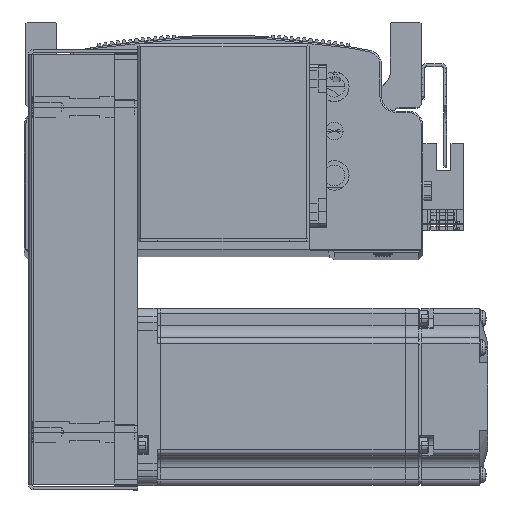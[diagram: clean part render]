
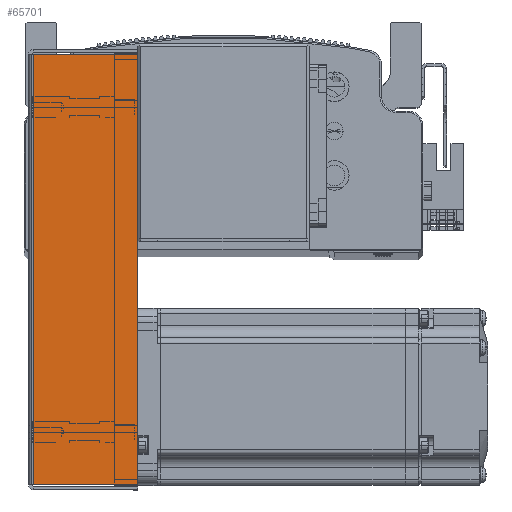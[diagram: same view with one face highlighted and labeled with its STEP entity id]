
A CAD part, top view. The second image highlights one B-rep face of the part: STEP entity #65701.
In plain terms, the highlighted planar face has unit normal (0, 0, 1) as drawn and (0, 0, -1) by its records, which use the part's own axes.
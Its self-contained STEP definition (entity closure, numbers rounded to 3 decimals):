
#8175 = ORIENTED_EDGE ( 'NONE', *, *, #9451, .F. ) ;
#8233 = ORIENTED_EDGE ( 'NONE', *, *, #9473, .T. ) ;
#8260 = ORIENTED_EDGE ( 'NONE', *, *, #9457, .F. ) ;
#8265 = ORIENTED_EDGE ( 'NONE', *, *, #9492, .T. ) ;
#9451 = EDGE_CURVE ( 'NONE', #35723, #35694, #71999, .T. ) ;
#9457 = EDGE_CURVE ( 'NONE', #35694, #35751, #72003, .T. ) ;
#9473 = EDGE_CURVE ( 'NONE', #35700, #35751, #72036, .T. ) ;
#9492 = EDGE_CURVE ( 'NONE', #35723, #35700, #72013, .T. ) ;
#19354 = PLANE ( 'NONE',  #41092 ) ;
#19419 = DIRECTION ( 'NONE',  ( 0., 0., 1. ) ) ;
#19449 = CARTESIAN_POINT ( 'NONE',  ( 0., 0., -34.5 ) ) ;
#19475 = DIRECTION ( 'NONE',  ( 0., -1., 0. ) ) ;
#25841 = FACE_OUTER_BOUND ( 'NONE', #30112, .T. ) ;
#30112 = EDGE_LOOP ( 'NONE', ( #8175, #8265, #8233, #8260 ) ) ;
#35694 = VERTEX_POINT ( 'NONE', #54235 ) ;
#35700 = VERTEX_POINT ( 'NONE', #54305 ) ;
#35723 = VERTEX_POINT ( 'NONE', #54403 ) ;
#35751 = VERTEX_POINT ( 'NONE', #54400 ) ;
#41092 = AXIS2_PLACEMENT_3D ( 'NONE', #19449, #19419, #19475 ) ;
#54235 = CARTESIAN_POINT ( 'NONE',  ( 72.793, 0.737, -34.5 ) ) ;
#54305 = CARTESIAN_POINT ( 'NONE',  ( -72.793, 36., -34.5 ) ) ;
#54400 = CARTESIAN_POINT ( 'NONE',  ( 72.793, 36., -34.5 ) ) ;
#54403 = CARTESIAN_POINT ( 'NONE',  ( -72.793, 0.737, -34.5 ) ) ;
#60559 = CARTESIAN_POINT ( 'NONE',  ( 74.5, 0.737, -34.5 ) ) ;
#60563 = DIRECTION ( 'NONE',  ( 0., 1., 0. ) ) ;
#60567 = DIRECTION ( 'NONE',  ( 1., 0., 0. ) ) ;
#60579 = CARTESIAN_POINT ( 'NONE',  ( 72.793, 0., -34.5 ) ) ;
#60622 = CARTESIAN_POINT ( 'NONE',  ( 0., 36., -34.5 ) ) ;
#60648 = DIRECTION ( 'NONE',  ( 1., 0., 0. ) ) ;
#60699 = CARTESIAN_POINT ( 'NONE',  ( -72.793, 0., -34.5 ) ) ;
#60714 = DIRECTION ( 'NONE',  ( 0., 1., 0. ) ) ;
#65701 = ADVANCED_FACE ( 'NONE', ( #25841 ), #19354, .F. ) ;
#71943 = VECTOR ( 'NONE', #60567, 1000. ) ;
#71991 = VECTOR ( 'NONE', #60563, 1000. ) ;
#71999 = LINE ( 'NONE', #60559, #71943 ) ;
#72003 = LINE ( 'NONE', #60579, #71991 ) ;
#72013 = LINE ( 'NONE', #60699, #72062 ) ;
#72036 = LINE ( 'NONE', #60622, #72058 ) ;
#72058 = VECTOR ( 'NONE', #60648, 1000. ) ;
#72062 = VECTOR ( 'NONE', #60714, 1000. ) ;
